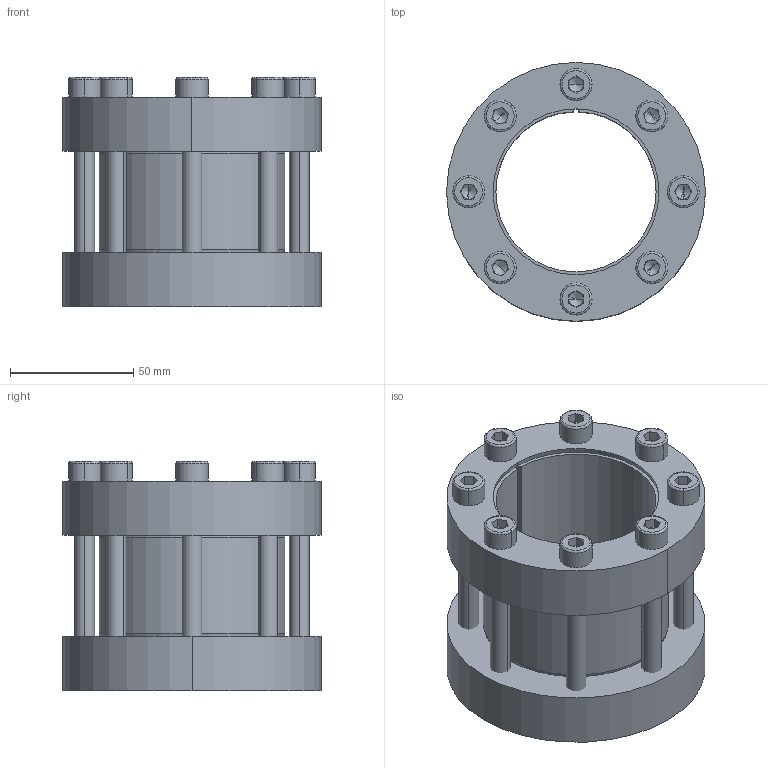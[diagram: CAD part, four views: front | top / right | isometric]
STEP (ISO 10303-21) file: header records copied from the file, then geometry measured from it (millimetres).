
FILE_DESCRIPTION (( 'STEP AP214' ), '1' );
FILE_NAME ('CONEX-M-65x105.step', '2013-04-06T13:25:49', ( 'Pc' ), ( '' ), 'SwSTEP 2.0', 'SolidWorks 2013', '' );
FILE_SCHEMA (( 'AUTOMOTIVE_DESIGN' ));
Length unit declared in the file: millimetre
Products named in the file (1): CONEX-M-65x105
Bounding box: 105 x 105 x 93.02 mm (x, y, z)
Volume: 302285.3 mm3; surface area: 107938.9 mm2
Topology: 11 solids, 11 shells, 276 faces, 622 edges, 368 vertices
Faces by surface type: plane 128, cylinder 74, cone 42, torus 32
Entity records: 10804 total; most frequent: DIRECTION 1446, CARTESIAN_POINT 1275, ORIENTED_EDGE 1212, EDGE_CURVE 606, AXIS2_PLACEMENT_3D 567, VERTEX_POINT 368, EDGE_LOOP 328, VECTOR 312
